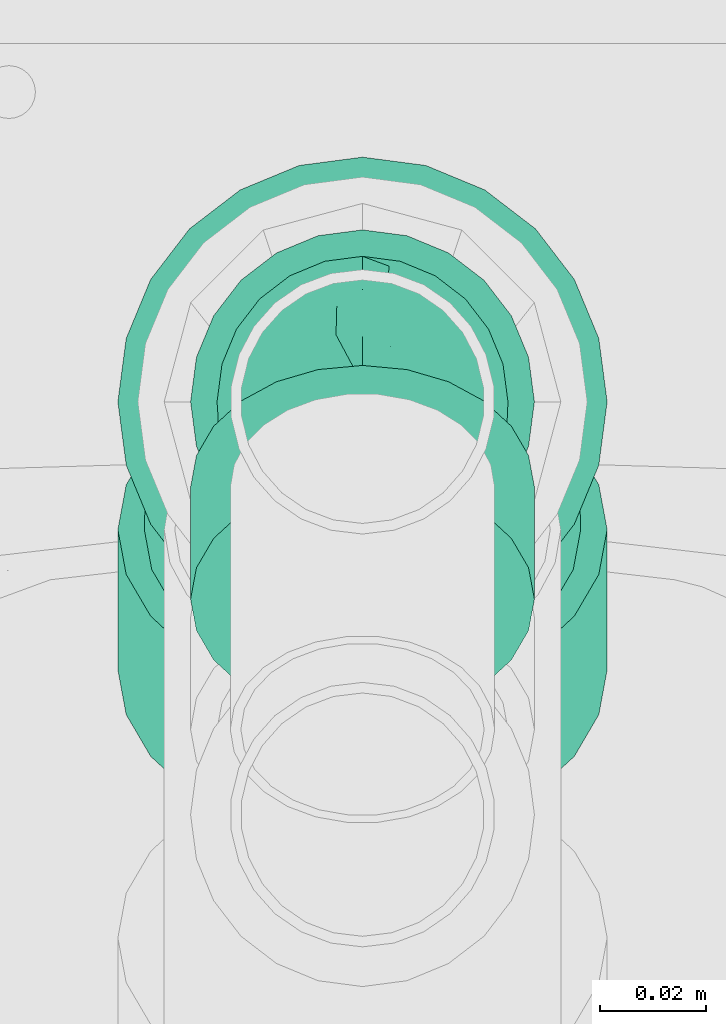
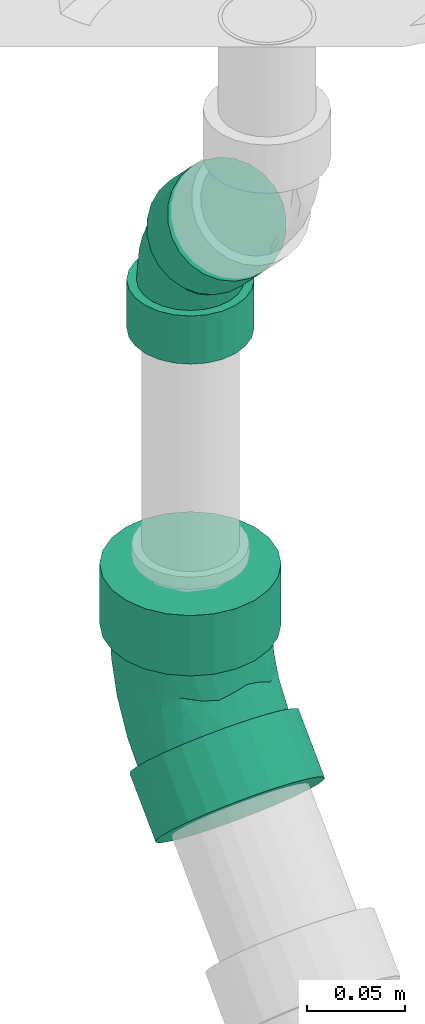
# One storey, part 56 of 108: 2 flow fittings.
"""IFC2X3 building model written with IfcOpenShell, lengths in millimetres."""

from ifc_helpers import new_model, entity, si_unit, converted_unit, derived_unit, direction, frame, origin_with_axes, place, context, subcontext, project, spatial, open_shell, surface_model, source, transform, mapped, type_object, element, save


model = new_model("IFC2X3")

# Units and contexts
model_context = context("Model", 3, precision=0.01, world=frame((0.0, 4.29681676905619e-09, 0.0)), true_north=direction((4.01073788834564e-13, 1.0)))
plan_context = context("Plan", 3, precision=0.01, world=frame((0.0, 4.29681676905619e-09, 0.0)), true_north=direction((4.01073788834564e-13, 1.0)))
body_context = subcontext(model_context, "Body", "Model", "MODEL_VIEW")
ifc_project = project(units=[converted_unit("PLANEANGLEUNIT", "DEGREE", entity("IfcPositiveLengthMeasure", 0.0174532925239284), si_unit("PLANEANGLEUNIT", "RADIAN"), dimensions=[0, 0, 0, 0, 0, 0, 0]), si_unit("AREAUNIT", "SQUARE_METRE"), si_unit("LENGTHUNIT", "METRE", prefix="MILLI"), si_unit("MASSUNIT", "GRAM", prefix="KILO"), si_unit("POWERUNIT", "WATT"), si_unit("PRESSUREUNIT", "PASCAL", prefix="KILO"), si_unit("FORCEUNIT", "NEWTON", prefix="KILO"), si_unit("ELECTRICVOLTAGEUNIT", "VOLT"), si_unit("ELECTRICCURRENTUNIT", "AMPERE"), si_unit("THERMODYNAMICTEMPERATUREUNIT", "DEGREE_CELSIUS"), si_unit("TIMEUNIT", "SECOND"), si_unit("VOLUMEUNIT", "CUBIC_METRE"), derived_unit("LINEARVELOCITYUNIT", [(si_unit("LENGTHUNIT", "METRE"), 1), (si_unit("TIMEUNIT", "SECOND"), -1)]), derived_unit("VOLUMETRICFLOWRATEUNIT", [(si_unit("VOLUMEUNIT", "CUBIC_METRE"), 1), (si_unit("TIMEUNIT", "SECOND"), -1)]), derived_unit("THERMALTRANSMITTANCEUNIT", [(si_unit("POWERUNIT", "WATT"), 1), (si_unit("THERMODYNAMICTEMPERATUREUNIT", "KELVIN"), -1), (si_unit("AREAUNIT", "SQUARE_METRE"), -1)]), derived_unit("SOUNDPRESSUREUNIT", [(si_unit("PRESSUREUNIT", "PASCAL"), 1)])], contexts=[model_context, plan_context])

# Site, building, storey
site_placement = place(None, frame((0.0, -4.29681676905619e-09, 0.0), z_axis=(0.0, 0.0, 1.0), x_axis=(1.0, 0.0, 0.0)))
site = spatial("IfcSite", under=ifc_project, at=site_placement, CompositionType="ELEMENT")
building_placement = place(site_placement, frame((0.0, 4.29681676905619e-09, 0.0), z_axis=(0.0, 0.0, 1.0), x_axis=(1.0, 0.0, 0.0)))
building = spatial("IfcBuilding", under=site, at=building_placement, Name="mc-building", CompositionType="ELEMENT")
storey_placement = place(building_placement, frame((0.0, 0.0, 210200.0), z_axis=(0.0, 0.0, 1.0), x_axis=(1.0, 0.0, 0.0)))
storey = spatial("IfcBuildingStorey", under=building, at=storey_placement, Name="Nivå F - 0,7 m", CompositionType="ELEMENT", Elevation=210200.0)

# Flow fittings
pipe_fitting_type = type_object("IfcPipeFittingType", Name="magi_sewer_bend_001", PredefinedType="BEND")
shared_shape_1 = source(origin_with_axes(), body_context, "Body", "SurfaceModel", [
    surface_model("IfcShellBasedSurfaceModel", [(-71.67262, -44.67407, -11.97038), (-71.67262, -11.97038, -44.67407), (-71.67262, -23.125, -40.05367), (-71.67262, -32.70369, -32.70369), (-71.67262, 0.0, -46.25), (-71.67262, -40.05367, -23.125), (-71.67262, -46.25, 0.0), (-71.67262, 11.97038, -44.67407), (-71.67262, 32.70369, -32.70369), (-71.67262, 23.125, -40.05367), (-71.67262, 44.67407, -11.97038), (-71.67262, 40.05367, -23.125), (-71.67262, -32.70369, 32.70369), (-71.67262, -44.67407, 11.97038), (-71.67262, -40.05367, 23.125), (-71.67262, 40.05367, 23.125), (-71.67262, -23.125, 40.05367), (-71.67262, -11.97038, 44.67407), (-71.67262, 0.0, 46.25), (-71.67262, 11.97038, 44.67407), (-71.67262, 44.67407, 11.97038), (-71.67262, 46.25, 0.0), (-71.67262, 23.125, 40.05367), (-71.67262, 32.70369, 32.70369), (-34.17262, 0.0, 46.25), (-34.17262, -11.97038, 44.67407), (-34.17262, -23.125, 40.05367), (-34.17262, -32.70369, 32.70369), (-34.17262, -40.05367, 23.125), (-34.17262, -44.67407, 11.97038), (-34.17262, 40.05367, 23.125), (-34.17262, -44.67407, -11.97038), (-34.17262, 23.125, 40.05367), (-34.17262, 32.70369, 32.70369), (-34.17262, 11.97038, 44.67407), (-34.17262, 44.67407, 11.97038), (-34.17262, 44.67407, -11.97038), (-34.17262, 46.25, 0.0), (-34.17262, -32.70369, -32.70369), (-34.17262, -40.05367, -23.125), (-34.17262, -23.125, -40.05367), (-34.17262, -11.97038, -44.67407), (-34.17262, 11.97038, -44.67407), (-34.17262, 32.70369, -32.70369), (-34.17262, 40.05367, -23.125), (-34.17262, 23.125, -40.05367), (-34.17262, 0.0, -46.25), (-34.17262, -46.25, 0.0), (22.35797, 79.00242, 23.125), (17.97651, 83.38388, 0.0), (19.09086, 82.26953, 11.97038), (34.32835, 67.03204, 40.05367), (27.55519, 73.8052, 32.70369), (42.21586, 59.14453, 44.67407), (27.55519, 73.8052, -32.70369), (73.8052, 27.55519, 32.70369), (42.21586, 59.14453, -44.67407), (19.09086, 82.26953, -11.97038), (22.35797, 79.00242, -23.125), (34.32835, 67.03204, -40.05367), (50.6802, 50.6802, 46.25), (59.14453, 42.21586, 44.67407), (67.03204, 34.32835, 40.05367), (67.03204, 34.32835, -40.05367), (79.00242, 22.35797, 23.125), (82.26953, 19.09086, 11.97038), (83.38388, 17.97651, 0.0), (82.26953, 19.09086, -11.97038), (59.14453, 42.21586, -44.67407), (50.6802, 50.6802, -46.25), (73.8052, 27.55519, -32.70369), (79.00242, 22.35797, -23.125), (56.86738, -8.54, 0.0), (55.75303, -7.42565, 11.97038), (52.48592, -4.15853, 23.125), (47.28869, 1.03869, 32.70369), (40.51554, 7.81185, 40.05367), (32.62803, 15.69935, 44.67407), (40.51554, 7.81185, -40.05367), (15.69935, 32.62803, 44.67407), (55.75303, -7.42565, -11.97038), (47.28869, 1.03869, -32.70369), (52.48592, -4.15853, -23.125), (32.62803, 15.69935, -44.67407), (15.69935, 32.62803, -44.67407), (24.16369, 24.16369, -46.25), (-4.15853, 52.48592, 23.125), (7.81185, 40.51554, 40.05367), (1.03869, 47.28869, 32.70369), (-4.15853, 52.48592, -23.125), (-7.42565, 55.75303, 11.97038), (1.03869, 47.28869, -32.70369), (7.81185, 40.51554, -40.05367), (-7.42565, 55.75303, -11.97038), (-8.54, 56.86738, 0.0), (24.16369, 24.16369, 46.25), (-34.17262, 10.67629, -39.84444), (-34.17262, 0.0, -41.25), (-34.17262, 35.72355, -20.625), (-34.17262, 20.625, -35.72355), (-34.17262, -10.67629, -39.84444), (-34.17262, 29.16816, -29.16816), (-34.17262, 39.84444, -10.67629), (-34.17262, -29.16816, -29.16816), (-34.17262, -35.72355, -20.625), (-34.17262, -20.625, -35.72355), (-34.17262, -39.84444, -10.67629), (-34.17262, -41.25, 0.0), (-34.17262, -39.84444, 10.67629), (-34.17262, 41.25, 0.0), (-34.17262, 35.72355, 20.625), (-34.17262, 39.84444, 10.67629), (-34.17262, 10.67629, 39.84444), (-34.17262, 20.625, 35.72355), (-34.17262, 29.16816, 29.16816), (-34.17262, -35.72355, 20.625), (-34.17262, -29.16816, 29.16816), (-34.17262, -10.67629, 39.84444), (-34.17262, -20.625, 35.72355), (-34.17262, 0.0, 41.25), (16.61442, 31.71296, -39.84444), (38.74777, 9.57961, -35.72355), (24.16369, 24.16369, -41.25), (9.57961, 38.74777, -35.72355), (49.42405, -1.09667, 20.625), (52.33797, -4.01058, -10.67629), (-1.09667, 49.42405, -20.625), (3.53869, 44.78869, -29.16816), (44.78869, 3.53869, -29.16816), (31.71296, 16.61442, -39.84444), (49.42405, -1.09667, -20.625), (52.33797, -4.01058, 10.67629), (53.33185, -5.00446, 0.0), (-5.00446, 53.33185, 0.0), (-4.01058, 52.33797, -10.67629), (-4.01058, 52.33797, 10.67629), (-1.09667, 49.42405, 20.625), (3.53869, 44.78869, 29.16816), (9.57961, 38.74777, 35.72355), (16.61442, 31.71296, 39.84444), (24.16369, 24.16369, 41.25), (31.71296, 16.61442, 39.84444), (44.78869, 3.53869, 29.16816), (38.74777, 9.57961, 35.72355), (10.50612, -25.36402, 22.98738), (-9.12592, -23.31355, 31.83011), (-13.32012, -31.54844, 24.15346), (-13.78242, -38.56558, 0.0), (-2.14376, -37.03332, 0.0), (-8.80455, -38.00287, 7.04384), (31.72686, -12.88936, 24.15346), (-16.3448, -15.12603, 37.70038), (4.23545, -10.22528, 37.18064), (1.2244, 24.79863, 38.50101), (7.45704, 19.5259, 40.65003), (-12.31128, -3.97165, 40.70351), (-3.92344, 9.47201, 41.10505), (-20.66814, 5.71607, 40.99967), (-11.71714, 28.28769, 33.67672), (-18.19114, 34.59421, 26.03152), (22.25324, 0.8618, 37.70038), (-15.84955, 17.16525, 38.56294), (15.91914, -26.99759, 16.25694), (-7.39626, -35.6875, 14.32507), (12.80708, -30.91902, 8.96571), (-16.99315, 41.02508, 16.94728), (33.09785, -20.64633, 7.04384), (37.01562, -17.52434, 0.0), (-16.52245, 44.20054, 8.66711), (30.46482, -20.00493, 14.32507), (11.51377, 5.89701, 40.70351), (22.93817, -10.03217, 31.83011), (-18.38693, 44.38997, 0.0), (6.92373, -16.71536, 32.89459), (12.77931, -30.85198, 0.0), (27.70238, -24.67064, 0.0), (-12.31128, -3.97165, -40.70351), (-8.80455, -38.00287, -7.04384), (12.80708, -30.91902, -8.96571), (11.51377, 5.89701, -40.70351), (-18.40106, 16.66949, -38.50101), (-19.07982, 8.53397, -40.65003), (-11.59873, 37.32487, -26.03152), (22.93817, -10.03217, -31.83011), (-16.99315, 41.02508, -16.94728), (30.46482, -20.00492, -14.32507), (-19.57136, 42.93764, -8.66711), (-0.93034, 23.34499, -38.56294), (-7.39626, -35.6875, -14.32507), (-11.71715, 28.28769, -33.67672), (-13.32012, -31.54844, -24.15346), (-9.12592, -23.31355, -31.83011), (6.92373, -16.71536, -32.89459), (10.50612, -25.36402, -22.98737), (-16.3448, -15.12603, -37.70038), (22.25324, 0.8618, -37.70038), (4.23545, -10.22528, -37.18064), (33.09785, -20.64633, -7.04384), (10.57272, 18.65645, -40.99967), (7.83365, -30.34671, -16.25694), (31.72686, -12.88936, -24.15346), (-3.92344, 9.47201, -41.10505)], [open_shell([[[0, 1, 2]], [[0, 2, 3]], [[1, 0, 4]], [[0, 3, 5]], [[4, 0, 6]], [[7, 8, 9]], [[8, 7, 4]], [[8, 10, 11]], [[10, 8, 4]], [[4, 6, 10]], [[6, 12, 10]], [[13, 14, 12]], [[10, 12, 15]], [[16, 17, 18]], [[16, 18, 12]], [[19, 12, 18]], [[10, 20, 21]], [[15, 20, 10]], [[15, 22, 23]], [[22, 15, 19]], [[12, 19, 15]], [[6, 13, 12]], [[24, 25, 26]], [[24, 26, 27]], [[27, 28, 29]], [[24, 27, 30]], [[27, 31, 30]], [[32, 30, 33]], [[30, 32, 34]], [[35, 36, 37]], [[30, 34, 24]], [[35, 30, 36]], [[27, 29, 31]], [[36, 30, 31]], [[38, 31, 39]], [[40, 41, 31]], [[40, 31, 38]], [[42, 31, 41]], [[36, 43, 44]], [[36, 31, 43]], [[43, 42, 45]], [[31, 42, 43]], [[41, 46, 42]], [[31, 29, 47]], [[36, 10, 37]], [[44, 11, 36]], [[9, 43, 45]], [[44, 43, 8]], [[7, 45, 42]], [[36, 11, 10]], [[10, 21, 37]], [[7, 9, 45]], [[8, 43, 9]], [[8, 11, 44]], [[4, 7, 42]], [[42, 46, 4]], [[46, 41, 1]], [[5, 39, 31]], [[39, 3, 38]], [[0, 31, 47]], [[1, 40, 2]], [[40, 1, 41]], [[40, 38, 2]], [[38, 3, 2]], [[39, 5, 3]], [[0, 5, 31]], [[47, 6, 0]], [[46, 1, 4]], [[29, 13, 47]], [[28, 14, 29]], [[16, 27, 26]], [[28, 27, 12]], [[17, 26, 25]], [[29, 14, 13]], [[13, 6, 47]], [[17, 16, 26]], [[12, 27, 16]], [[12, 14, 28]], [[18, 17, 25]], [[25, 24, 18]], [[33, 22, 32]], [[35, 15, 30]], [[33, 30, 23]], [[20, 35, 37]], [[32, 19, 34]], [[32, 22, 19]], [[19, 18, 34]], [[33, 23, 22]], [[30, 15, 23]], [[20, 15, 35]], [[37, 21, 20]], [[34, 18, 24]], [[48, 49, 50]], [[51, 48, 52]], [[48, 53, 54]], [[53, 48, 51]], [[53, 55, 56]], [[57, 54, 58]], [[57, 49, 48]], [[54, 56, 59]], [[57, 48, 54]], [[53, 56, 54]], [[53, 60, 55]], [[61, 62, 55]], [[56, 55, 63]], [[64, 65, 66]], [[55, 64, 63]], [[66, 67, 64]], [[56, 68, 69]], [[63, 68, 56]], [[70, 67, 71]], [[67, 70, 63]], [[64, 67, 63]], [[60, 61, 55]], [[72, 73, 74]], [[72, 74, 75]], [[75, 76, 77]], [[72, 75, 78]], [[75, 79, 78]], [[80, 81, 82]], [[81, 80, 78]], [[83, 84, 85]], [[78, 80, 72]], [[83, 78, 84]], [[75, 77, 79]], [[84, 78, 79]], [[86, 79, 87]], [[84, 79, 86]], [[86, 87, 88]], [[89, 86, 90]], [[84, 91, 92]], [[91, 84, 89]], [[90, 93, 89]], [[89, 84, 86]], [[94, 93, 90]], [[79, 77, 95]], [[84, 56, 85]], [[92, 59, 84]], [[58, 91, 89]], [[92, 91, 54]], [[57, 89, 93]], [[84, 59, 56]], [[56, 69, 85]], [[57, 58, 89]], [[54, 91, 58]], [[54, 59, 92]], [[49, 57, 93]], [[93, 94, 49]], [[94, 90, 50]], [[51, 87, 79]], [[87, 52, 88]], [[53, 79, 95]], [[50, 86, 48]], [[86, 50, 90]], [[86, 88, 48]], [[88, 52, 48]], [[87, 51, 52]], [[53, 51, 79]], [[95, 60, 53]], [[94, 50, 49]], [[77, 61, 95]], [[76, 62, 77]], [[64, 75, 74]], [[76, 75, 55]], [[65, 74, 73]], [[77, 62, 61]], [[61, 60, 95]], [[65, 64, 74]], [[55, 75, 64]], [[55, 62, 76]], [[66, 65, 73]], [[73, 72, 66]], [[67, 72, 80]], [[71, 80, 82]], [[63, 78, 83]], [[68, 83, 85]], [[82, 70, 71]], [[71, 67, 80]], [[81, 63, 70]], [[81, 78, 63]], [[63, 83, 68]], [[85, 69, 68]], [[81, 70, 82]], [[72, 67, 66]], [[96, 97, 98]], [[99, 96, 98]], [[100, 98, 97]], [[101, 99, 98]], [[102, 98, 100]], [[103, 104, 105]], [[100, 105, 104]], [[104, 106, 100]], [[106, 102, 100]], [[107, 108, 106]], [[109, 102, 106]], [[110, 111, 109]], [[108, 110, 106]], [[112, 113, 114]], [[108, 114, 110]], [[114, 108, 112]], [[115, 116, 108]], [[117, 108, 116]], [[118, 117, 116]], [[117, 112, 108]], [[117, 119, 112]], [[109, 106, 110]], [[120, 121, 122]], [[123, 124, 120]], [[125, 120, 124]], [[126, 123, 127]], [[124, 123, 126]], [[121, 125, 128]], [[121, 129, 122]], [[128, 125, 130]], [[120, 125, 121]], [[125, 131, 132]], [[133, 126, 134]], [[133, 135, 136]], [[126, 136, 124]], [[137, 138, 139]], [[137, 139, 136]], [[140, 136, 139]], [[124, 141, 142]], [[131, 125, 124]], [[142, 141, 143]], [[141, 124, 140]], [[136, 140, 124]], [[126, 133, 136]], [[144, 145, 146]], [[147, 148, 149]], [[118, 116, 145]], [[124, 142, 150]], [[151, 145, 152]], [[146, 145, 116]], [[139, 153, 154]], [[117, 118, 151]], [[155, 156, 157]], [[119, 117, 155]], [[114, 158, 159]], [[143, 141, 160]], [[157, 112, 119]], [[113, 161, 158]], [[108, 147, 149]], [[138, 137, 158]], [[162, 163, 164]], [[158, 114, 113]], [[116, 115, 146]], [[110, 159, 165]], [[111, 110, 165]], [[131, 166, 167]], [[168, 109, 111]], [[169, 162, 164]], [[163, 149, 164]], [[113, 112, 161]], [[140, 154, 170]], [[142, 143, 171]], [[136, 135, 165]], [[170, 141, 140]], [[144, 146, 163]], [[142, 171, 150]], [[156, 154, 153]], [[171, 143, 160]], [[115, 163, 146]], [[166, 131, 169]], [[144, 150, 171]], [[157, 161, 112]], [[144, 162, 150]], [[111, 165, 168]], [[115, 108, 163]], [[172, 168, 133]], [[145, 173, 152]], [[135, 168, 165]], [[152, 170, 155]], [[136, 165, 159]], [[152, 160, 170]], [[136, 159, 137]], [[156, 155, 170]], [[139, 138, 153]], [[153, 158, 161]], [[151, 155, 117]], [[110, 114, 159]], [[169, 131, 124]], [[169, 124, 150]], [[173, 144, 171]], [[137, 159, 158]], [[158, 153, 138]], [[156, 153, 161]], [[145, 151, 118]], [[155, 151, 152]], [[170, 160, 141]], [[171, 160, 152]], [[108, 107, 147]], [[164, 148, 174]], [[108, 149, 163]], [[148, 164, 149]], [[166, 164, 175]], [[167, 166, 175]], [[167, 132, 131]], [[164, 166, 169]], [[170, 154, 156]], [[140, 139, 154]], [[155, 157, 119]], [[161, 157, 156]], [[144, 173, 145]], [[171, 152, 173]], [[133, 168, 135]], [[168, 172, 109]], [[150, 162, 169]], [[163, 162, 144]], [[175, 164, 174]], [[100, 97, 176]], [[148, 177, 178]], [[122, 129, 179]], [[180, 181, 96]], [[98, 182, 101]], [[121, 128, 183]], [[184, 182, 98]], [[130, 125, 185]], [[102, 186, 184]], [[123, 120, 187]], [[106, 177, 147]], [[99, 180, 96]], [[177, 106, 188]], [[127, 189, 182]], [[188, 104, 190]], [[190, 103, 191]], [[103, 105, 191]], [[192, 193, 191]], [[106, 104, 188]], [[103, 190, 104]], [[194, 105, 100]], [[195, 179, 129]], [[134, 126, 184]], [[196, 194, 176]], [[109, 172, 186]], [[193, 190, 191]], [[133, 134, 186]], [[196, 176, 179]], [[127, 123, 189]], [[184, 98, 102]], [[126, 182, 184]], [[194, 191, 105]], [[187, 189, 123]], [[181, 176, 97]], [[189, 187, 180]], [[101, 189, 99]], [[125, 167, 197]], [[198, 120, 122]], [[195, 129, 121]], [[199, 185, 178]], [[128, 200, 183]], [[196, 195, 183]], [[128, 130, 200]], [[201, 198, 179]], [[200, 193, 183]], [[201, 179, 176]], [[197, 167, 175]], [[198, 187, 120]], [[201, 181, 180]], [[177, 188, 178]], [[193, 199, 190]], [[183, 192, 196]], [[130, 185, 200]], [[134, 184, 186]], [[193, 200, 185]], [[126, 127, 182]], [[101, 182, 189]], [[189, 180, 99]], [[201, 180, 187]], [[176, 194, 100]], [[191, 194, 196]], [[183, 195, 121]], [[179, 195, 196]], [[147, 177, 148]], [[147, 107, 106]], [[199, 178, 188]], [[197, 178, 185]], [[178, 175, 174]], [[125, 132, 167]], [[178, 197, 175]], [[125, 197, 185]], [[176, 181, 201]], [[97, 96, 181]], [[179, 198, 122]], [[187, 198, 201]], [[193, 192, 183]], [[191, 196, 192]], [[109, 186, 102]], [[186, 172, 133]], [[190, 199, 188]], [[185, 199, 193]], [[148, 178, 174]]])]),
])
flow_fitting_1_placement = place(storey_placement, frame((339409.94567, 460704.19354, 240.825710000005), z_axis=(1.0, 0.0, 0.0), x_axis=(0.0, 0.707106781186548, 0.707106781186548)))
element("IfcFlowFitting", 1, at=flow_fitting_1_placement, inside=storey, type_object=pipe_fitting_type, Name="magi_sewer_bend_001", context=body_context, shape_type="MappedRepresentation", body=[
    mapped(shared_shape_1, transform((0.0, 0.0, 0.0), scale=1.0)),
])
shared_shape_2 = source(origin_with_axes(), body_context, "Body", "SurfaceModel", [
    surface_model("IfcShellBasedSurfaceModel", [(-52.78174, -16.25, -28.14582), (-52.78174, 0.0, -32.5), (-52.78174, -8.41162, -31.39259), (-52.78174, -31.39259, -8.41162), (-52.78174, -22.98097, -22.98097), (-52.78174, -28.14582, -16.25), (-52.78174, 16.25, -28.14582), (-52.78174, 8.41162, -31.39259), (-52.78174, 22.98097, -22.98097), (-52.78174, 31.39259, -8.41162), (-52.78174, 28.14582, -16.25), (-52.78174, 31.39259, 8.41162), (-52.78174, -32.5, 0.0), (-52.78174, -31.39259, 8.41162), (-52.78174, -16.25, 28.14582), (-52.78174, -28.14582, 16.25), (-52.78174, -22.98097, 22.98097), (-52.78174, -8.41162, 31.39259), (-52.78174, 0.0, 32.5), (-52.78174, 22.98097, 22.98097), (-52.78174, 28.14582, 16.25), (-52.78174, 32.5, 0.0), (-22.78175, 0.0, 32.5), (-22.78175, -8.41162, 31.39259), (-22.78175, -16.25, 28.14582), (-22.78175, -28.14582, 16.25), (-22.78175, -31.39259, 8.41162), (-22.78175, -22.98097, 22.98097), (-22.78175, 31.39259, 8.41162), (-22.78175, 22.98097, 22.98097), (-22.78175, 16.25, 28.14582), (-22.78175, 8.41162, 31.39259), (-22.78175, 28.14582, 16.25), (-22.78175, 31.39259, -8.41162), (-22.78175, 32.5, 0.0), (-22.78175, -16.25, -28.14582), (-22.78175, -31.39259, -8.41162), (-22.78175, -22.98097, -22.98097), (-22.78175, -28.14582, -16.25), (-22.78175, -8.41162, -31.39259), (-22.78175, 0.0, -32.5), (-22.78175, 22.98097, -22.98097), (-22.78175, 28.14582, -16.25), (-22.78175, 16.25, -28.14582), (-22.78175, 8.41162, -31.39259), (-22.78175, -32.5, 0.0), (-52.78174, 16.25, 28.14582), (-52.78174, 8.41162, 31.39259), (31.37442, 43.27024, 31.39259), (21.07233, 53.57233, 22.98097), (25.83184, 48.81281, 28.14582), (14.34136, 60.3033, 0.0), (17.42023, 57.22443, -16.25), (15.12442, 59.52025, -8.41162), (21.07233, 53.57233, -22.98097), (31.37442, 43.27024, -31.39259), (25.83184, 48.81281, -28.14582), (57.22444, 17.42023, 16.25), (59.52025, 15.12442, 8.41162), (60.3033, 14.34136, 0.0), (43.27024, 31.37442, -31.39259), (53.57233, 21.07233, -22.98097), (48.81281, 25.83184, -28.14582), (59.52025, 15.12442, -8.41162), (57.22444, 17.42023, -16.25), (32.35913, -0.14087, -22.98097), (22.05704, 10.16121, -31.39259), (27.59961, 4.61864, -28.14582), (10.16121, 22.05704, -31.39259), (16.10913, 16.10913, -32.5), (-0.14087, 32.35913, 22.98097), (10.16121, 22.05704, 31.39259), (4.61864, 27.59961, 28.14582), (-3.79298, 36.01123, 16.25), (-0.14087, 32.35913, -22.98097), (4.61864, 27.59961, -28.14582), (-3.79298, 36.01123, -16.25), (-6.08879, 38.30704, -8.41162), (37.32233, 37.32233, -32.5), (-6.87184, 39.0901, 0.0), (15.12442, 59.52025, 8.41162), (-6.08879, 38.30704, 8.41162), (17.42023, 57.22443, 16.25), (16.10913, 16.10913, 32.5), (37.32233, 37.32233, 32.5), (22.05704, 10.16121, 31.39259), (43.27024, 31.37442, 31.39259), (27.59961, 4.61864, 28.14582), (48.81281, 25.83184, 28.14582), (32.35913, -0.14087, 22.98097), (36.01123, -3.79298, 16.25), (53.57233, 21.07233, 22.98097), (38.30704, -6.08879, 8.41162), (39.0901, -6.87184, 0.0), (36.01123, -3.79298, -16.25), (38.30704, -6.08879, -8.41162), (-22.78175, -7.11752, -26.56296), (-22.78175, -13.75, -23.8157), (-22.78175, 0.0, -27.5), (-22.78175, -19.44544, -19.44544), (-22.78175, 7.11752, 26.56296), (-22.78175, 13.75, 23.8157), (-22.78175, 0.0, 27.5), (-22.78175, -19.44544, 19.44544), (-22.78175, -13.75, 23.8157), (-22.78175, -23.8157, 13.75), (-22.78175, -27.5, 0.0), (-22.78175, -26.56296, 7.11752), (-22.78175, -7.11752, 26.56296), (16.10913, 16.10913, -27.5), (11.07628, 21.14198, -26.56296), (6.38641, 25.83184, -23.8157), (34.89198, -2.67372, 7.11752), (35.55456, -3.33631, 0.0), (32.94937, -0.73112, 13.75), (25.83184, 6.38641, 23.8157), (16.10913, 16.10913, 27.5), (21.14198, 11.07628, 26.56296), (-10.89653, -10.08402, 25.13359), (-6.08395, -15.54237, 21.22007), (2.82363, -6.81685, 24.78709), (-8.88008, -21.03229, 16.10231), (29.85913, 2.35913, 19.44544), (21.15124, -8.59291, 16.10231), (-8.20752, -2.64777, 27.13567), (-10.56637, 11.4435, 25.70862), (-2.61562, 6.31467, 27.40336), (-13.77876, 3.81071, 27.33312), (11.07628, 21.14198, 26.56296), (0.81627, 16.53242, 25.66734), (4.97136, 13.01727, 27.10002), (7.00408, -16.90935, 15.32492), (14.83549, 0.57453, 25.13359), (-11.32876, 27.35006, 11.29819), (-22.78175, 23.8157, 13.75), (-12.12742, 23.0628, 17.35435), (-7.81143, 18.85846, 22.45115), (-22.78175, 19.44544, 19.44544), (2.36739, -23.11848, 4.86135), (12.57175, -19.06151, 4.86135), (8.1319, -19.63215, 9.56958), (-6.99605, -24.36003, 0.0), (-7.7494, -25.65083, 5.00996), (26.50273, -10.51974, 5.28921), (20.30988, -13.33662, 9.55004), (-11.01497, 29.46703, 5.77808), (-22.78175, 26.56296, 7.11752), (-4.93084, -23.79167, 9.55004), (-22.78175, 27.5, 0.0), (6.38641, 25.83184, 23.8157), (2.35913, 29.85913, 19.44544), (7.67585, 3.93134, 27.13567), (15.29211, -6.68811, 21.22007), (-0.73111, 32.94937, 13.75), (-2.67372, 34.89198, 7.11752), (8.78964, -21.22006, 0.0), (22.1721, -12.27819, 0.0), (-12.25795, 29.59331, 0.0), (-3.33631, 35.55456, 0.0), (4.61582, -11.14357, 21.92972), (-8.20752, -2.64777, -27.13567), (14.67324, -18.02124, -4.86135), (4.58896, -22.36809, -4.86135), (8.1319, -19.63215, -9.56958), (21.14198, 11.07628, -26.56296), (7.67585, 3.93134, -27.13567), (-12.26737, 11.113, -25.66734), (-12.71988, 5.68931, -27.10002), (-22.78175, 7.11752, -26.56296), (-22.78175, 23.8157, -13.75), (-7.73248, 24.88325, -17.35435), (-22.78175, 19.44544, -19.44544), (25.83184, 6.38641, -23.8157), (29.85913, 2.35913, -19.44544), (15.29211, -6.68811, -21.22007), (-11.32876, 27.35006, -11.29819), (32.94937, -0.73112, -13.75), (34.89198, -2.67372, -7.11752), (20.30988, -13.33662, -9.55004), (-22.78175, 26.56296, -7.11752), (-13.04757, 28.62509, -5.77807), (-0.62023, 15.56333, -25.70862), (-11.30168, -26.17884, -5.28921), (-22.78175, -26.56296, -7.11752), (-4.93084, -23.79167, -9.55004), (-22.78175, 13.75, -23.8157), (7.00408, -16.90935, -15.32492), (21.15124, -8.59291, -16.10231), (-8.88008, -21.03229, -16.10231), (-6.08395, -15.54237, -21.22007), (4.61582, -11.14357, -21.92972), (-22.78175, -23.8157, -13.75), (-10.89653, -10.08402, -25.13359), (2.82363, -6.81685, -24.78709), (14.83549, 0.57453, -25.13359), (-2.67372, 34.89198, -7.11752), (-2.61562, 6.31467, -27.40336), (2.35913, 29.85913, -19.44544), (-7.81143, 18.85846, -22.45115), (-0.73111, 32.94937, -13.75), (23.61753, -12.65822, -5.00996), (7.04848, 12.43764, -27.33312)], [open_shell([[[0, 1, 2]], [[3, 0, 4]], [[3, 4, 5]], [[1, 6, 7]], [[8, 9, 10]], [[8, 11, 9]], [[3, 12, 13]], [[14, 15, 16]], [[14, 17, 18]], [[11, 19, 20]], [[21, 9, 11]], [[11, 3, 13]], [[22, 23, 24]], [[22, 24, 25]], [[25, 26, 22]], [[25, 24, 27]], [[22, 26, 28]], [[22, 29, 30]], [[30, 31, 22]], [[29, 28, 32]], [[28, 29, 22]], [[28, 33, 34]], [[28, 26, 35]], [[26, 36, 35]], [[37, 36, 38]], [[39, 28, 35]], [[35, 36, 37]], [[28, 39, 40]], [[33, 41, 42]], [[33, 28, 41]], [[43, 40, 44]], [[40, 43, 41]], [[40, 41, 28]], [[36, 26, 45]], [[33, 9, 34]], [[42, 10, 33]], [[6, 41, 43]], [[42, 41, 8]], [[7, 43, 44]], [[33, 10, 9]], [[9, 21, 34]], [[7, 6, 43]], [[8, 41, 6]], [[8, 10, 42]], [[1, 7, 44]], [[44, 40, 1]], [[2, 40, 39]], [[0, 39, 35]], [[5, 38, 36]], [[3, 36, 45]], [[39, 0, 2]], [[0, 35, 37]], [[0, 37, 4]], [[37, 38, 4]], [[4, 38, 5]], [[5, 36, 3]], [[45, 12, 3]], [[40, 2, 1]], [[26, 13, 45]], [[25, 15, 26]], [[14, 27, 24]], [[25, 27, 16]], [[17, 24, 23]], [[26, 15, 13]], [[13, 12, 45]], [[17, 14, 24]], [[16, 27, 14]], [[16, 15, 25]], [[18, 17, 23]], [[23, 22, 18]], [[46, 30, 29]], [[20, 32, 28]], [[29, 32, 19]], [[11, 28, 34]], [[31, 46, 47]], [[31, 30, 46]], [[47, 18, 31]], [[29, 19, 46]], [[32, 20, 19]], [[11, 20, 28]], [[34, 21, 11]], [[31, 18, 22]], [[48, 49, 50]], [[51, 52, 53]], [[54, 55, 56]], [[57, 58, 59]], [[60, 61, 62]], [[61, 63, 64]], [[63, 61, 60]], [[65, 66, 67]], [[66, 68, 69]], [[70, 71, 72]], [[73, 71, 70]], [[68, 74, 75]], [[68, 55, 69]], [[75, 56, 68]], [[52, 74, 76]], [[75, 74, 54]], [[53, 76, 77]], [[68, 56, 55]], [[55, 78, 69]], [[53, 52, 76]], [[54, 74, 52]], [[54, 56, 75]], [[51, 53, 77]], [[77, 79, 51]], [[80, 79, 81]], [[82, 81, 73]], [[50, 72, 71]], [[48, 71, 83]], [[81, 82, 80]], [[82, 73, 70]], [[82, 70, 49]], [[70, 72, 49]], [[49, 72, 50]], [[50, 71, 48]], [[83, 84, 48]], [[79, 80, 51]], [[85, 86, 83]], [[87, 88, 85]], [[57, 89, 90]], [[87, 89, 91]], [[58, 90, 92]], [[85, 88, 86]], [[86, 84, 83]], [[58, 57, 90]], [[91, 89, 57]], [[91, 88, 87]], [[59, 58, 92]], [[92, 93, 59]], [[64, 94, 65]], [[62, 67, 66]], [[65, 67, 61]], [[60, 66, 69]], [[95, 64, 63]], [[95, 94, 64]], [[63, 59, 95]], [[65, 61, 64]], [[67, 62, 61]], [[60, 62, 66]], [[69, 78, 60]], [[95, 59, 93]], [[96, 97, 98]], [[97, 99, 98]], [[100, 101, 102]], [[103, 104, 105]], [[105, 106, 107]], [[108, 102, 104]], [[109, 110, 111]], [[112, 113, 114]], [[115, 116, 117]], [[118, 119, 120]], [[103, 121, 119]], [[104, 103, 119]], [[114, 122, 123]], [[102, 108, 124]], [[108, 104, 118]], [[101, 100, 125]], [[126, 127, 124]], [[102, 127, 100]], [[128, 129, 130]], [[119, 121, 131]], [[115, 117, 132]], [[133, 134, 135]], [[136, 137, 101]], [[138, 139, 140]], [[141, 138, 142]], [[143, 112, 144]], [[133, 145, 146]], [[105, 107, 147]], [[148, 146, 145]], [[146, 134, 133]], [[103, 105, 121]], [[125, 136, 101]], [[147, 140, 131]], [[106, 141, 142]], [[149, 150, 136]], [[116, 130, 151]], [[122, 115, 152]], [[153, 154, 133]], [[151, 117, 116]], [[138, 141, 155]], [[122, 152, 123]], [[126, 130, 129]], [[152, 115, 132]], [[105, 147, 121]], [[156, 143, 139]], [[112, 143, 113]], [[127, 125, 100]], [[145, 133, 154]], [[157, 145, 158]], [[123, 131, 144]], [[119, 159, 120]], [[120, 151, 124]], [[128, 149, 129]], [[120, 132, 151]], [[133, 135, 153]], [[126, 124, 151]], [[150, 153, 135]], [[136, 125, 129]], [[118, 124, 108]], [[134, 137, 135]], [[112, 114, 144]], [[131, 121, 147]], [[159, 131, 152]], [[131, 123, 152]], [[144, 114, 123]], [[137, 136, 135]], [[150, 135, 136]], [[136, 129, 149]], [[126, 129, 125]], [[119, 118, 104]], [[124, 118, 120]], [[151, 132, 117]], [[152, 132, 120]], [[151, 130, 126]], [[116, 128, 130]], [[124, 127, 102]], [[125, 127, 126]], [[138, 140, 147]], [[144, 131, 140]], [[138, 147, 142]], [[139, 138, 155]], [[156, 139, 155]], [[144, 140, 139]], [[147, 107, 142]], [[106, 142, 107]], [[131, 159, 119]], [[152, 120, 159]], [[158, 145, 154]], [[145, 157, 148]], [[139, 143, 144]], [[113, 143, 156]], [[96, 98, 160]], [[161, 162, 163]], [[109, 164, 165]], [[166, 167, 168]], [[169, 170, 171]], [[172, 173, 174]], [[175, 170, 169]], [[176, 177, 178]], [[179, 180, 175]], [[111, 110, 181]], [[182, 183, 184]], [[185, 166, 168]], [[141, 182, 162]], [[186, 187, 178]], [[183, 182, 106]], [[188, 99, 189]], [[99, 97, 189]], [[190, 186, 189]], [[183, 191, 184]], [[99, 188, 191]], [[192, 97, 96]], [[188, 186, 184]], [[193, 160, 165]], [[194, 165, 164]], [[148, 157, 180]], [[161, 156, 155]], [[158, 195, 180]], [[196, 165, 160]], [[197, 111, 198]], [[175, 169, 179]], [[199, 170, 175]], [[192, 189, 97]], [[181, 198, 111]], [[167, 160, 98]], [[198, 181, 166]], [[171, 198, 185]], [[156, 161, 200]], [[109, 201, 110]], [[194, 164, 172]], [[178, 163, 186]], [[173, 176, 187]], [[174, 193, 194]], [[174, 187, 186]], [[193, 192, 160]], [[113, 156, 200]], [[199, 197, 170]], [[201, 181, 110]], [[187, 174, 173]], [[174, 190, 193]], [[201, 165, 196]], [[196, 167, 166]], [[195, 175, 180]], [[176, 178, 187]], [[195, 199, 175]], [[186, 188, 189]], [[184, 191, 188]], [[197, 198, 170]], [[171, 170, 198]], [[198, 166, 185]], [[196, 166, 181]], [[160, 192, 96]], [[189, 192, 193]], [[174, 194, 172]], [[165, 194, 193]], [[160, 167, 196]], [[98, 168, 167]], [[165, 201, 109]], [[181, 201, 196]], [[161, 163, 178]], [[184, 186, 163]], [[161, 178, 200]], [[162, 161, 155]], [[141, 162, 155]], [[184, 163, 162]], [[178, 177, 200]], [[113, 200, 177]], [[186, 190, 174]], [[189, 193, 190]], [[148, 180, 179]], [[180, 157, 158]], [[162, 182, 184]], [[106, 182, 141]], [[0, 3, 8]], [[8, 3, 11]], [[6, 1, 8]], [[8, 1, 0]], [[14, 13, 15]], [[13, 14, 11]], [[11, 14, 18]], [[18, 19, 11]], [[18, 46, 19]], [[47, 46, 18]], [[82, 51, 80]], [[49, 52, 82]], [[54, 49, 48]], [[54, 48, 60]], [[51, 82, 52]], [[54, 52, 49]], [[60, 55, 54]], [[48, 84, 86]], [[59, 86, 88]], [[57, 88, 91]], [[57, 59, 88]], [[86, 59, 63]], [[78, 55, 60]], [[63, 60, 48]], [[48, 86, 63]], [[92, 95, 93]], [[89, 92, 90]], [[89, 87, 85]], [[92, 89, 95]], [[85, 66, 89]], [[94, 66, 65]], [[66, 94, 95]], [[95, 89, 66]], [[66, 85, 83]], [[74, 66, 71]], [[74, 71, 73]], [[76, 73, 81]], [[66, 74, 68]], [[81, 77, 76]], [[74, 73, 76]], [[79, 77, 81]], [[66, 83, 71]], [[185, 168, 98]], [[185, 98, 106]], [[185, 179, 169]], [[171, 185, 169]], [[185, 106, 134]], [[191, 183, 99]], [[106, 99, 183]], [[99, 106, 98]], [[134, 179, 185]], [[134, 146, 179]], [[106, 104, 134]], [[101, 137, 102]], [[102, 137, 134]], [[104, 106, 105]], [[134, 104, 102]], [[148, 179, 146]], [[173, 109, 111]], [[113, 111, 199]], [[199, 111, 197]], [[114, 113, 199]], [[164, 173, 172]], [[164, 109, 173]], [[173, 177, 176]], [[177, 173, 113]], [[111, 113, 173]], [[199, 195, 114]], [[158, 154, 153]], [[195, 153, 114]], [[150, 149, 128]], [[153, 150, 116]], [[128, 116, 150]], [[114, 116, 122]], [[116, 115, 122]], [[153, 116, 114]], [[195, 158, 153]]])]),
])
flow_fitting_2_placement = place(storey_placement, frame((339409.94567, 460704.19354, 511.949569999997), z_axis=(-1.0, 0.0, 0.0), x_axis=(0.0, 0.707106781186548, -0.707106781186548)))
element("IfcFlowFitting", 2, at=flow_fitting_2_placement, inside=storey, type_object=pipe_fitting_type, Name="magi_sewer_bend_001", context=body_context, shape_type="MappedRepresentation", body=[
    mapped(shared_shape_2, transform((0.0, 0.0, 0.0), scale=1.0)),
])

save(model, "model.ifc")
